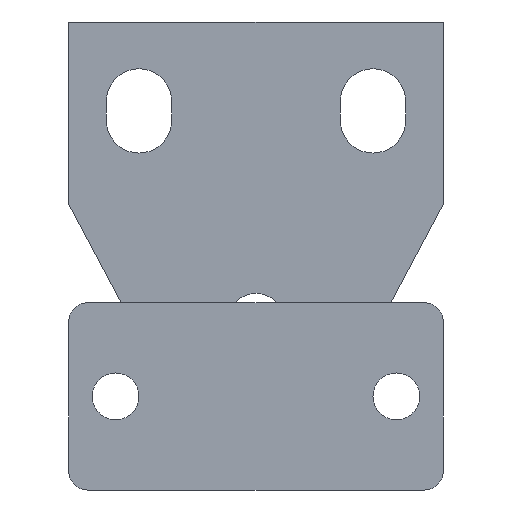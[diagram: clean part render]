
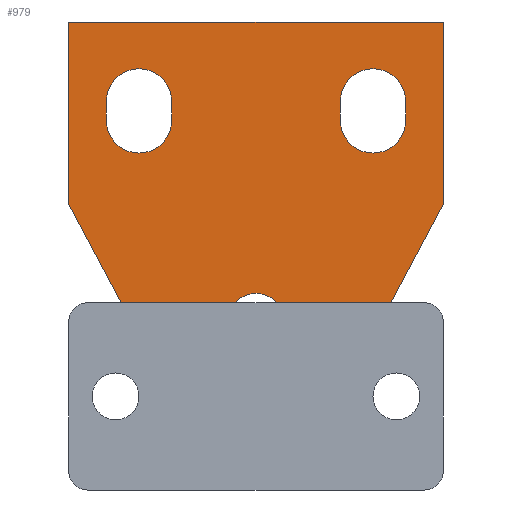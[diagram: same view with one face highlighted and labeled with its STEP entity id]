
A CAD part, front view. The second image highlights one B-rep face of the part: STEP entity #979.
In plain terms, the highlighted planar face has unit normal (0, -1, 0).
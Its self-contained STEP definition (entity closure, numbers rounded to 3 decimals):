
#82=PLANE('',#1078);
#116=LINE('',#1752,#184);
#121=LINE('',#1766,#189);
#124=LINE('',#1776,#192);
#129=LINE('',#1790,#197);
#134=LINE('',#1804,#202);
#138=LINE('',#1813,#206);
#141=LINE('',#1817,#209);
#144=LINE('',#1823,#212);
#146=LINE('',#1828,#214);
#150=LINE('',#1838,#218);
#152=LINE('',#1846,#220);
#184=VECTOR('',#1225,2.);
#189=VECTOR('',#1238,2.);
#192=VECTOR('',#1249,2.);
#197=VECTOR('',#1262,2.);
#202=VECTOR('',#1275,19.5);
#206=VECTOR('',#1281,19.5);
#209=VECTOR('',#1286,40.);
#212=VECTOR('',#1291,27.5);
#214=VECTOR('',#1295,27.5);
#218=VECTOR('',#1307,8.);
#220=VECTOR('',#1317,8.);
#242=FACE_BOUND('',#373,.T.);
#243=FACE_BOUND('',#374,.T.);
#244=FACE_BOUND('',#375,.T.);
#299=FACE_OUTER_BOUND('',#372,.T.);
#372=EDGE_LOOP('',(#836,#837,#838,#839,#840,#841));
#373=EDGE_LOOP('',(#842,#843,#844,#845));
#374=EDGE_LOOP('',(#846,#847,#848,#849));
#375=EDGE_LOOP('',(#850,#851,#852,#853));
#416=CIRCLE('',#1047,3.);
#418=CIRCLE('',#1051,3.5);
#420=CIRCLE('',#1055,3.5);
#422=CIRCLE('',#1059,3.5);
#424=CIRCLE('',#1063,3.5);
#427=CIRCLE('',#1072,8.);
#429=CIRCLE('',#1076,3.);
#474=VERTEX_POINT('',#1741);
#475=VERTEX_POINT('',#1742);
#478=VERTEX_POINT('',#1750);
#479=VERTEX_POINT('',#1751);
#482=VERTEX_POINT('',#1759);
#484=VERTEX_POINT('',#1765);
#486=VERTEX_POINT('',#1774);
#487=VERTEX_POINT('',#1775);
#490=VERTEX_POINT('',#1783);
#492=VERTEX_POINT('',#1789);
#496=VERTEX_POINT('',#1801);
#497=VERTEX_POINT('',#1803);
#500=VERTEX_POINT('',#1810);
#501=VERTEX_POINT('',#1812);
#503=VERTEX_POINT('',#1821);
#505=VERTEX_POINT('',#1827);
#507=VERTEX_POINT('',#1836);
#509=VERTEX_POINT('',#1842);
#580=EDGE_CURVE('',#474,#475,#416,.T.);
#584=EDGE_CURVE('',#478,#479,#116,.T.);
#588=EDGE_CURVE('',#479,#482,#418,.T.);
#591=EDGE_CURVE('',#482,#484,#121,.T.);
#594=EDGE_CURVE('',#484,#478,#420,.T.);
#596=EDGE_CURVE('',#486,#487,#124,.T.);
#600=EDGE_CURVE('',#487,#490,#422,.T.);
#603=EDGE_CURVE('',#490,#492,#129,.T.);
#606=EDGE_CURVE('',#492,#486,#424,.T.);
#610=EDGE_CURVE('',#496,#497,#134,.T.);
#614=EDGE_CURVE('',#500,#501,#138,.T.);
#617=EDGE_CURVE('',#497,#500,#141,.T.);
#620=EDGE_CURVE('',#503,#496,#144,.T.);
#622=EDGE_CURVE('',#501,#505,#146,.T.);
#625=EDGE_CURVE('',#505,#503,#427,.T.);
#628=EDGE_CURVE('',#507,#475,#150,.T.);
#631=EDGE_CURVE('',#509,#507,#429,.T.);
#632=EDGE_CURVE('',#474,#509,#152,.T.);
#836=ORIENTED_EDGE('',*,*,#625,.F.);
#837=ORIENTED_EDGE('',*,*,#622,.F.);
#838=ORIENTED_EDGE('',*,*,#614,.F.);
#839=ORIENTED_EDGE('',*,*,#617,.F.);
#840=ORIENTED_EDGE('',*,*,#610,.F.);
#841=ORIENTED_EDGE('',*,*,#620,.F.);
#842=ORIENTED_EDGE('',*,*,#591,.T.);
#843=ORIENTED_EDGE('',*,*,#594,.T.);
#844=ORIENTED_EDGE('',*,*,#584,.T.);
#845=ORIENTED_EDGE('',*,*,#588,.T.);
#846=ORIENTED_EDGE('',*,*,#603,.T.);
#847=ORIENTED_EDGE('',*,*,#606,.T.);
#848=ORIENTED_EDGE('',*,*,#596,.T.);
#849=ORIENTED_EDGE('',*,*,#600,.T.);
#850=ORIENTED_EDGE('',*,*,#580,.T.);
#851=ORIENTED_EDGE('',*,*,#628,.F.);
#852=ORIENTED_EDGE('',*,*,#631,.F.);
#853=ORIENTED_EDGE('',*,*,#632,.F.);
#979=ADVANCED_FACE('',(#299,#242,#243,#244),#82,.F.);
#1047=AXIS2_PLACEMENT_3D('',#1743,#1217,#1218);
#1051=AXIS2_PLACEMENT_3D('',#1760,#1231,#1232);
#1055=AXIS2_PLACEMENT_3D('',#1771,#1243,#1244);
#1059=AXIS2_PLACEMENT_3D('',#1784,#1255,#1256);
#1063=AXIS2_PLACEMENT_3D('',#1795,#1267,#1268);
#1072=AXIS2_PLACEMENT_3D('',#1832,#1301,#1302);
#1076=AXIS2_PLACEMENT_3D('',#1844,#1313,#1314);
#1078=AXIS2_PLACEMENT_3D('',#1848,#1319,#1320);
#1217=DIRECTION('center_axis',(0.,1.,0.));
#1218=DIRECTION('ref_axis',(1.,0.,0.));
#1225=DIRECTION('',(0.,0.,-1.));
#1231=DIRECTION('center_axis',(0.,1.,0.));
#1232=DIRECTION('ref_axis',(-1.,0.,0.));
#1238=DIRECTION('',(0.,0.,1.));
#1243=DIRECTION('center_axis',(0.,1.,0.));
#1244=DIRECTION('ref_axis',(1.,0.,0.));
#1249=DIRECTION('',(0.,0.,1.));
#1255=DIRECTION('center_axis',(0.,1.,0.));
#1256=DIRECTION('ref_axis',(-1.,0.,0.));
#1262=DIRECTION('',(0.,0.,-1.));
#1267=DIRECTION('center_axis',(0.,1.,0.));
#1268=DIRECTION('ref_axis',(1.,0.,0.));
#1275=DIRECTION('',(0.,0.,1.));
#1281=DIRECTION('',(0.,0.,-1.));
#1286=DIRECTION('',(1.,0.,0.));
#1291=DIRECTION('',(-0.471,0.,0.882));
#1295=DIRECTION('',(-0.471,0.,-0.882));
#1301=DIRECTION('center_axis',(0.,1.,0.));
#1302=DIRECTION('ref_axis',(0.375,0.,0.927));
#1307=DIRECTION('',(0.,0.,1.));
#1313=DIRECTION('center_axis',(0.,-1.,0.));
#1314=DIRECTION('ref_axis',(-1.,0.,0.));
#1317=DIRECTION('',(0.,0.,-1.));
#1319=DIRECTION('center_axis',(0.,1.,0.));
#1320=DIRECTION('ref_axis',(0.,0.,1.));
#1741=CARTESIAN_POINT('',(-0.784,31.665,8.));
#1742=CARTESIAN_POINT('',(5.216,31.665,8.));
#1743=CARTESIAN_POINT('Origin',(2.216,31.665,8.));
#1750=CARTESIAN_POINT('',(18.216,31.665,31.5));
#1751=CARTESIAN_POINT('',(18.216,31.665,29.5));
#1752=CARTESIAN_POINT('',(18.216,31.665,14.956));
#1759=CARTESIAN_POINT('',(11.216,31.665,29.5));
#1760=CARTESIAN_POINT('Origin',(14.716,31.665,29.5));
#1765=CARTESIAN_POINT('',(11.216,31.665,31.5));
#1766=CARTESIAN_POINT('',(11.216,31.665,15.956));
#1771=CARTESIAN_POINT('Origin',(14.716,31.665,31.5));
#1774=CARTESIAN_POINT('',(-13.784,31.665,29.5));
#1775=CARTESIAN_POINT('',(-13.784,31.665,31.5));
#1776=CARTESIAN_POINT('',(-13.784,31.665,15.956));
#1783=CARTESIAN_POINT('',(-6.784,31.665,31.5));
#1784=CARTESIAN_POINT('Origin',(-10.284,31.665,31.5));
#1789=CARTESIAN_POINT('',(-6.784,31.665,29.5));
#1790=CARTESIAN_POINT('',(-6.784,31.665,14.956));
#1795=CARTESIAN_POINT('Origin',(-10.284,31.665,29.5));
#1801=CARTESIAN_POINT('',(-17.784,31.665,20.5));
#1803=CARTESIAN_POINT('',(-17.784,31.665,40.));
#1804=CARTESIAN_POINT('',(-17.784,31.665,20.5));
#1810=CARTESIAN_POINT('',(22.216,31.665,40.));
#1812=CARTESIAN_POINT('',(22.216,31.665,20.5));
#1813=CARTESIAN_POINT('',(22.216,31.665,40.));
#1817=CARTESIAN_POINT('',(-17.784,31.665,40.));
#1821=CARTESIAN_POINT('',(-4.843,31.665,-3.765));
#1823=CARTESIAN_POINT('',(-4.843,31.665,-3.765));
#1827=CARTESIAN_POINT('',(9.275,31.665,-3.765));
#1828=CARTESIAN_POINT('',(22.216,31.665,20.5));
#1832=CARTESIAN_POINT('Origin',(2.216,31.665,0.));
#1836=CARTESIAN_POINT('',(5.216,31.665,0.));
#1838=CARTESIAN_POINT('',(5.216,31.665,0.));
#1842=CARTESIAN_POINT('',(-0.784,31.665,0.));
#1844=CARTESIAN_POINT('Origin',(2.216,31.665,0.));
#1846=CARTESIAN_POINT('',(-0.784,31.665,10.));
#1848=CARTESIAN_POINT('Origin',(2.216,31.665,-0.089));
